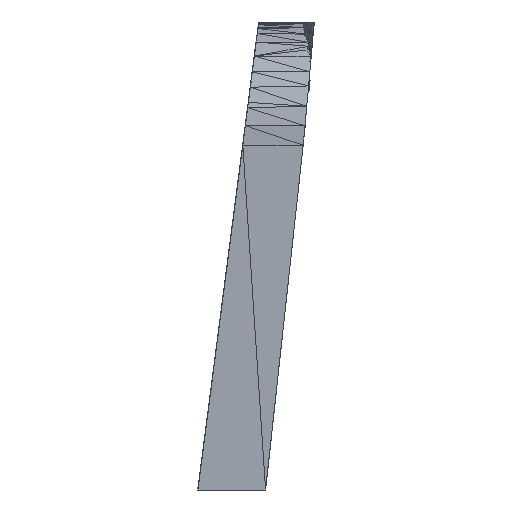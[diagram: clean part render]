
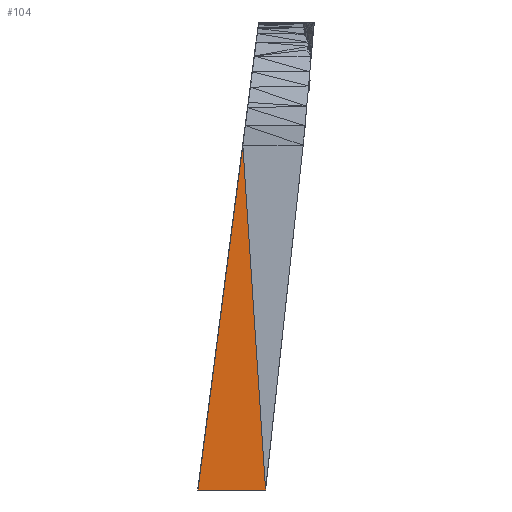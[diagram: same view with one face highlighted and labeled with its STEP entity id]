
A CAD part, left-side view. The second image highlights one B-rep face of the part: STEP entity #104.
In plain terms, the highlighted planar face has unit normal (-1, 0, 0).
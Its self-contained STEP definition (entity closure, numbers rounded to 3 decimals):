
#77 = VERTEX_POINT('',#78);
#78 = CARTESIAN_POINT('',(37.623,69.184,-0.507
    ));
#87 = VERTEX_POINT('',#88);
#88 = CARTESIAN_POINT('',(37.623,70.42,
    18.228));
#94 = EDGE_CURVE('',#87,#77,#95,.T.);
#95 = LINE('',#96,#97);
#96 = CARTESIAN_POINT('',(37.623,70.42,
    18.228));
#97 = VECTOR('',#98,1.);
#98 = DIRECTION('',(0.,-0.066,-0.998));
#104 = ADVANCED_FACE('',(#105),#122,.T.);
#105 = FACE_BOUND('',#106,.T.);
#106 = EDGE_LOOP('',(#107,#115,#121));
#107 = ORIENTED_EDGE('',*,*,#108,.T.);
#108 = EDGE_CURVE('',#87,#109,#111,.T.);
#109 = VERTEX_POINT('',#110);
#110 = CARTESIAN_POINT('',(37.623,72.857,
    -0.507));
#111 = LINE('',#112,#113);
#112 = CARTESIAN_POINT('',(37.623,70.42,
    18.228));
#113 = VECTOR('',#114,1.);
#114 = DIRECTION('',(0.,0.129,-0.992));
#115 = ORIENTED_EDGE('',*,*,#116,.T.);
#116 = EDGE_CURVE('',#109,#77,#117,.T.);
#117 = LINE('',#118,#119);
#118 = CARTESIAN_POINT('',(37.623,72.857,
    -0.507));
#119 = VECTOR('',#120,1.);
#120 = DIRECTION('',(0.,-1.,0.));
#121 = ORIENTED_EDGE('',*,*,#94,.F.);
#122 = PLANE('',#123);
#123 = AXIS2_PLACEMENT_3D('',#124,#125,#126);
#124 = CARTESIAN_POINT('',(37.623,70.75,
    8.028));
#125 = DIRECTION('',(-1.,-0.,-0.));
#126 = DIRECTION('',(0.,0.,-1.));
